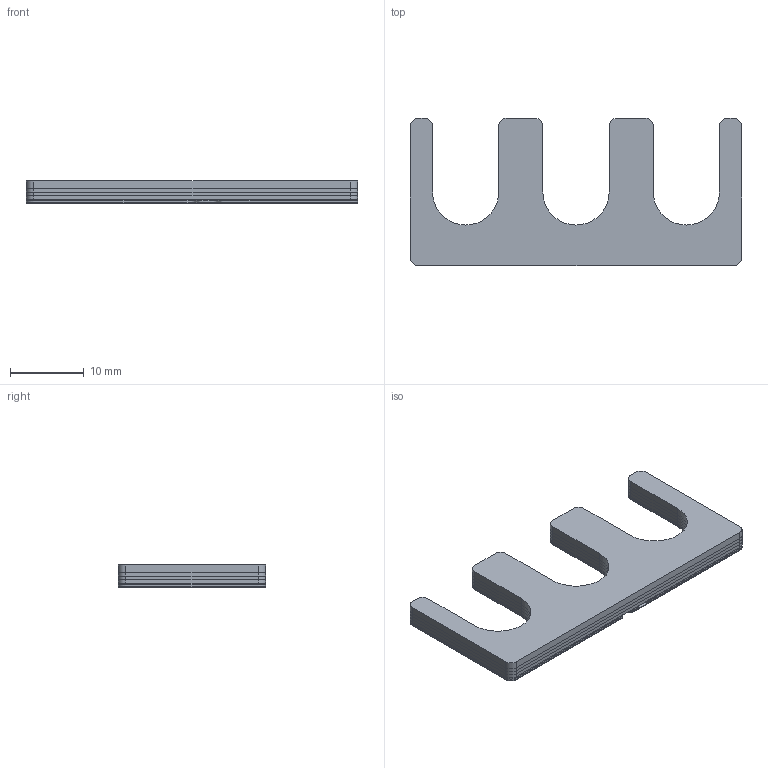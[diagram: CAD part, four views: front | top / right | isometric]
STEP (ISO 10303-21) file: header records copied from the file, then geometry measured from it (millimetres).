
FILE_DESCRIPTION (( 'STEP AP214' ), '1' );
FILE_NAME ('SP-45x20-08-03-30-VA-00-00__Notum.STEP', '2018-03-29T11:19:58', ( '' ), ( '' ), 'SwSTEP 2.0', 'SolidWorks 2015', '' );
FILE_SCHEMA (( 'AUTOMOTIVE_DESIGN' ));
Length unit declared in the file: millimetre
Products named in the file (5): S-45x20-08-03-01-VA-00-00__Notum; S-45x20-08-03-02-VA-00-00__Notum; S-45x20-08-03-05-VA-00-00__Notum; S-45x20-08-03-10-VA-00-00__Notum; SP-45x20-08-03-30-VA-00-00__Notum
Assembly tree (7 placements, depth 2):
  SP-45x20-08-03-30-VA-00-00__Notum
    S-45x20-08-03-10-VA-00-00__Notum
    S-45x20-08-03-05-VA-00-00__Notum  x3
    S-45x20-08-03-02-VA-00-00__Notum  x2
    S-45x20-08-03-01-VA-00-00__Notum
Bounding box: 45 x 20 x 3 mm (x, y, z)
Volume: 1596.4 mm3; surface area: 8048.3 mm2
Topology: 7 solids, 7 shells, 226 faces, 636 edges, 424 vertices
Faces by surface type: plane 120, cylinder 106
Entity records: 4454 total; most frequent: DIRECTION 768, CARTESIAN_POINT 750, ORIENTED_EDGE 732, EDGE_CURVE 366, AXIS2_PLACEMENT_3D 262, VERTEX_POINT 244, LINE 244, VECTOR 244
